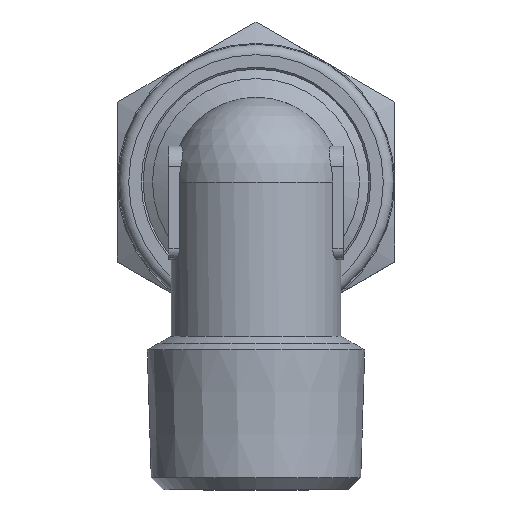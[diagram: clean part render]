
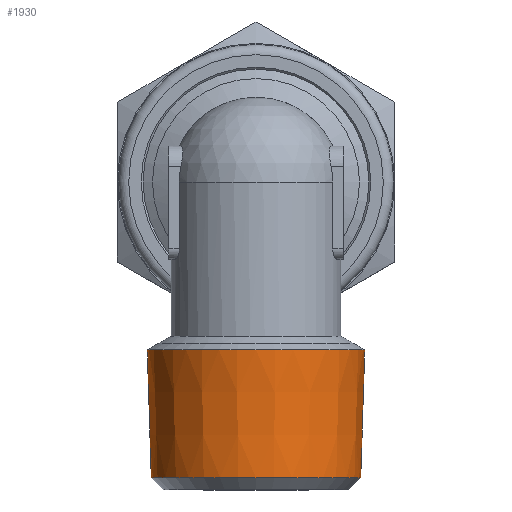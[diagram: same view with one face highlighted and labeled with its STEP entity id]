
A CAD part, left-side view. The second image highlights one B-rep face of the part: STEP entity #1930.
In plain terms, the highlighted conical face has half-angle 1.79 degrees and reference radius 10.591 mm.
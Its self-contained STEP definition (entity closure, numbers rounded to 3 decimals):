
#1930=ADVANCED_FACE('', (#1940,#1950), #1960, .T.);
#7540=AXIS2_PLACEMENT_3D('Ax2Pl3d', #7550, #7560, #7570);
#7660=AXIS2_PLACEMENT_3D('Ax2Pl3d', #7670, #7680, #7690);
#7700=AXIS2_PLACEMENT_3D('Ax2Pl3d', #7710, #7720, #7730);
#7550=CARTESIAN_POINT('HicPkt', (20.918,21.271,23.15));
#29570=CARTESIAN_POINT('', (20.918,10.68,23.15));
#7670=CARTESIAN_POINT('HicPkt', (20.918,21.271,10.702));
#29590=CARTESIAN_POINT('', (20.918,11.069,10.702));
#7710=CARTESIAN_POINT('HicPkt', (20.918,21.271,23.15))
;
#30490=CIRCLE('Circle', #7540, 10.592);
#30510=CIRCLE('Circle', #7660, 10.203);
#1960=CONICAL_SURFACE('Kegel', #7700, 10.592, 
0.031);
#7560=DIRECTION('Axis', (0.,0.,1.));
#7570=DIRECTION('RefDirection', (1.,0.,-0.));
#7680=DIRECTION('Axis', (0.,0.,-1.));
#7690=DIRECTION('RefDirection', (-1.,-0.,0.));
#7720=DIRECTION('Axis', (0.,0.,1.));
#7730=DIRECTION('RefDirection', (1.,0.,-0.));
#38740=EDGE_CURVE('', #38750, #38750, #30490, .T.);
#38780=EDGE_CURVE('', #38790, #38790, #30510, .T.);
#42770=EDGE_LOOP('Edge_loop', (#42780));
#42790=EDGE_LOOP('Edge_loop', (#42800));
#1950=FACE_BOUND('', #42790, .T.);
#1940=FACE_OUTER_BOUND('Face_outer_bound', #42770, .T.);
#42780=ORIENTED_EDGE('', *, *, #38740, .F.);
#42800=ORIENTED_EDGE('', *, *, #38780, .F.);
#38750=VERTEX_POINT('', #29570);
#38790=VERTEX_POINT('', #29590);
